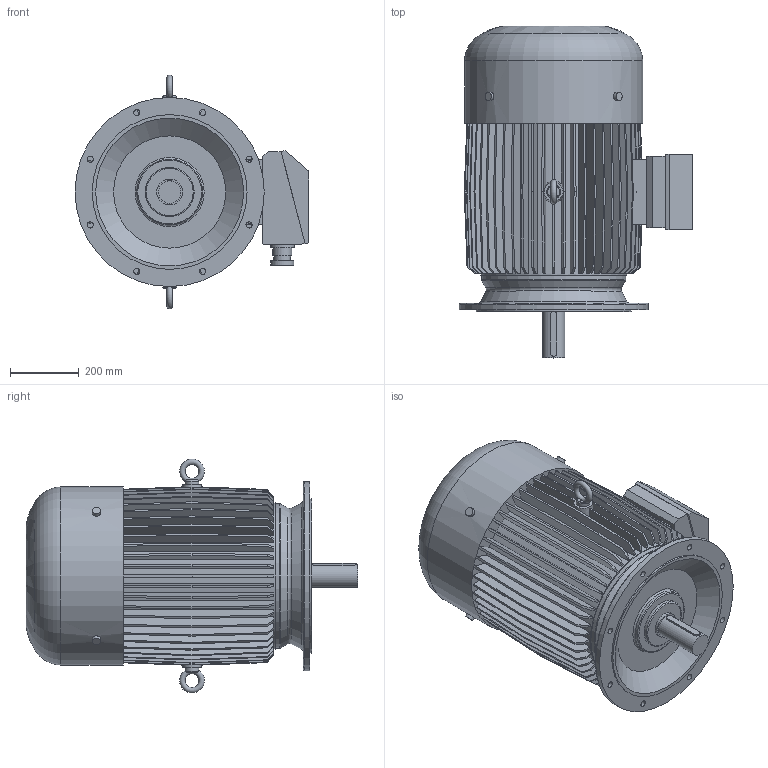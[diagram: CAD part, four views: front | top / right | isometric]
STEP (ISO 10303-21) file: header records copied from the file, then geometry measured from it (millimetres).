
FILE_DESCRIPTION( ( 'Unknown' ), '1' );
FILE_NAME( 'P:/3D_Bry³y silników skatalogowane/2Sg/2Sg250/2SKg250M4.stp', 'Unknown', ( 'Unknown' ), ( 'Unknown' ), 'XStep 1.0', 'Unknown', ' ' );
FILE_SCHEMA( ( 'CONFIG_CONTROL_DESIGN' ) );
Length unit declared in the file: millimetre
Products named in the file (1): 1
Bounding box: 680 x 965 x 679.93 mm (x, y, z)
Volume: 146289268.1 mm3; surface area: 3958007.2 mm2
Topology: 1 solids, 1 shells, 457 faces, 1316 edges, 877 vertices
Faces by surface type: plane 379, cylinder 50, torus 14, cone 13, bspline 1
Full cylindrical faces by diameter (mm): 18 x8, 25 x4, 40 x4, 48.628 x2, 55.029 x2, 65 x1, 67.566 x2, 68.767 x2, 75 x1, 142.409 x1, 191.411 x1, 420 x1, 425 x1, 450 x1, 518 x1, 550 x1
Entity records: 15429 total; most frequent: CARTESIAN_POINT 3541, ORIENTED_EDGE 2492, DIRECTION 2336, EDGE_CURVE 1246, LINE 966, VECTOR 966, VERTEX_POINT 856, AXIS2_PLACEMENT_3D 685
